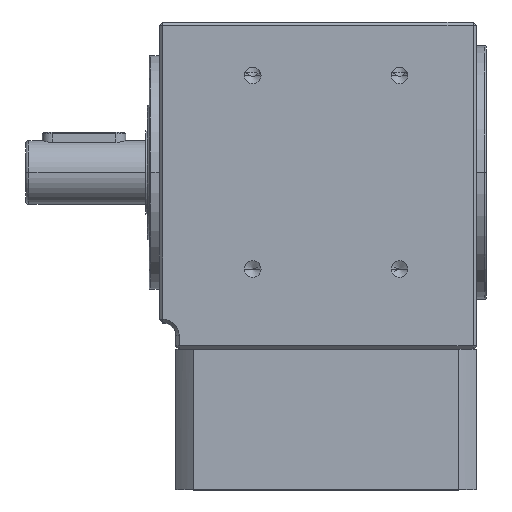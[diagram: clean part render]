
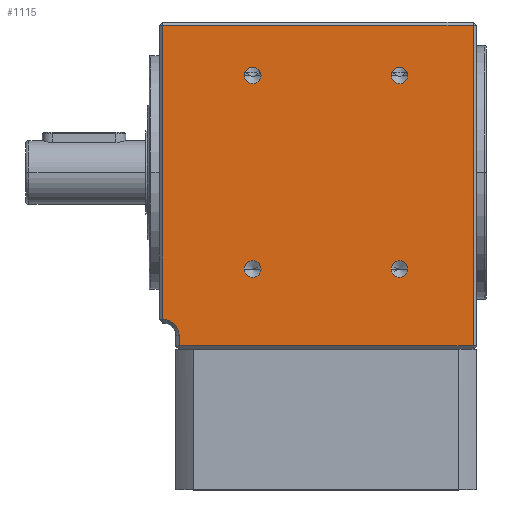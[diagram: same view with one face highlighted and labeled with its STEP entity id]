
A CAD part, top view. The second image highlights one B-rep face of the part: STEP entity #1115.
In plain terms, the highlighted planar face has unit normal (0, 0, 1).
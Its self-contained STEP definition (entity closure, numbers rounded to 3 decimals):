
#10 = DIRECTION ( 'NONE',  ( -1., 0., 0. ) ) ;
#30 = VERTEX_POINT ( 'NONE', #4280 ) ;
#35 = VERTEX_POINT ( 'NONE', #1004 ) ;
#61 = AXIS2_PLACEMENT_3D ( 'NONE', #3447, #5611, #2862 ) ;
#102 = VERTEX_POINT ( 'NONE', #552 ) ;
#339 = ORIENTED_EDGE ( 'NONE', *, *, #374, .F. ) ;
#350 = LINE ( 'NONE', #6373, #6005 ) ;
#374 = EDGE_CURVE ( 'NONE', #6306, #5108, #3771, .T. ) ;
#410 = DIRECTION ( 'NONE',  ( 0., 1., 0. ) ) ;
#455 = EDGE_CURVE ( 'NONE', #6812, #102, #871, .T. ) ;
#536 = VERTEX_POINT ( 'NONE', #6038 ) ;
#552 = CARTESIAN_POINT ( 'NONE',  ( -41.5, -52., 45. ) ) ;
#593 = DIRECTION ( 'NONE',  ( 0., 0., 1. ) ) ;
#614 = CARTESIAN_POINT ( 'NONE',  ( 24.5, -29., 45. ) ) ;
#729 = CARTESIAN_POINT ( 'NONE',  ( -17., -29., 45. ) ) ;
#749 = CIRCLE ( 'NONE', #2772, 2.5 ) ;
#773 = FACE_OUTER_BOUND ( 'NONE', #4164, .T. ) ;
#813 = EDGE_CURVE ( 'NONE', #5108, #6306, #6001, .T. ) ;
#824 = EDGE_CURVE ( 'NONE', #2982, #30, #3073, .T. ) ;
#851 = DIRECTION ( 'NONE',  ( 1., 0., 0. ) ) ;
#871 = LINE ( 'NONE', #1694, #1983 ) ;
#917 = CIRCLE ( 'NONE', #5685, 5. ) ;
#933 = LINE ( 'NONE', #2633, #6680 ) ;
#951 = CARTESIAN_POINT ( 'NONE',  ( 0., 0., 45. ) ) ;
#1004 = CARTESIAN_POINT ( 'NONE',  ( 46.5, -52., 45. ) ) ;
#1030 = AXIS2_PLACEMENT_3D ( 'NONE', #7054, #1590, #5442 ) ;
#1051 = ORIENTED_EDGE ( 'NONE', *, *, #2172, .F. ) ;
#1115 = ADVANCED_FACE ( 'NONE', ( #2736, #6692, #3756, #5327, #773 ), #1497, .F. ) ;
#1162 = DIRECTION ( 'NONE',  ( 1., 0., 0. ) ) ;
#1336 = ORIENTED_EDGE ( 'NONE', *, *, #2532, .T. ) ;
#1352 = CIRCLE ( 'NONE', #3876, 2.5 ) ;
#1435 = LINE ( 'NONE', #3232, #1851 ) ;
#1497 = PLANE ( 'NONE',  #1712 ) ;
#1505 = DIRECTION ( 'NONE',  ( 1., 0., 0. ) ) ;
#1579 = EDGE_CURVE ( 'NONE', #102, #35, #3936, .T. ) ;
#1590 = DIRECTION ( 'NONE',  ( 0., 0., 1. ) ) ;
#1605 = CARTESIAN_POINT ( 'NONE',  ( 27., 29., 45. ) ) ;
#1633 = AXIS2_PLACEMENT_3D ( 'NONE', #1918, #2465, #5225 ) ;
#1694 = CARTESIAN_POINT ( 'NONE',  ( -41.5, 0., 45. ) ) ;
#1712 = AXIS2_PLACEMENT_3D ( 'NONE', #951, #2619, #3146 ) ;
#1767 = ORIENTED_EDGE ( 'NONE', *, *, #1780, .F. ) ;
#1780 = EDGE_CURVE ( 'NONE', #6521, #6552, #2468, .T. ) ;
#1789 = ORIENTED_EDGE ( 'NONE', *, *, #2506, .T. ) ;
#1810 = DIRECTION ( 'NONE',  ( 0., 0., -1. ) ) ;
#1851 = VECTOR ( 'NONE', #2187, 1000. ) ;
#1918 = CARTESIAN_POINT ( 'NONE',  ( -19.5, -29., 45. ) ) ;
#1950 = CARTESIAN_POINT ( 'NONE',  ( 24.5, 29., 45. ) ) ;
#1983 = VECTOR ( 'NONE', #2218, 1000. ) ;
#2024 = ORIENTED_EDGE ( 'NONE', *, *, #455, .T. ) ;
#2172 = EDGE_CURVE ( 'NONE', #4294, #5539, #749, .T. ) ;
#2173 = EDGE_CURVE ( 'NONE', #5539, #4294, #1352, .T. ) ;
#2187 = DIRECTION ( 'NONE',  ( 0., -1., 0. ) ) ;
#2218 = DIRECTION ( 'NONE',  ( 0., -1., 0. ) ) ;
#2229 = DIRECTION ( 'NONE',  ( 1., 0., 0. ) ) ;
#2257 = CARTESIAN_POINT ( 'NONE',  ( 27., -29., 45. ) ) ;
#2289 = CIRCLE ( 'NONE', #1633, 2.5 ) ;
#2465 = DIRECTION ( 'NONE',  ( 0., 0., 1. ) ) ;
#2468 = CIRCLE ( 'NONE', #61, 2.5 ) ;
#2473 = VECTOR ( 'NONE', #6867, 1000. ) ;
#2506 = EDGE_CURVE ( 'NONE', #4158, #536, #1435, .T. ) ;
#2532 = EDGE_CURVE ( 'NONE', #536, #6812, #917, .T. ) ;
#2606 = DIRECTION ( 'NONE',  ( 1., 0., 0. ) ) ;
#2619 = DIRECTION ( 'NONE',  ( 0., 0., -1. ) ) ;
#2630 = CIRCLE ( 'NONE', #4351, 2.5 ) ;
#2633 = CARTESIAN_POINT ( 'NONE',  ( 46.5, 0., 45. ) ) ;
#2680 = EDGE_LOOP ( 'NONE', ( #339, #6874 ) ) ;
#2736 = FACE_BOUND ( 'NONE', #3680, .T. ) ;
#2772 = AXIS2_PLACEMENT_3D ( 'NONE', #5600, #593, #1162 ) ;
#2862 = DIRECTION ( 'NONE',  ( 1., 0., 0. ) ) ;
#2933 = CARTESIAN_POINT ( 'NONE',  ( 46.5, 44., 45. ) ) ;
#2982 = VERTEX_POINT ( 'NONE', #3811 ) ;
#3073 = CIRCLE ( 'NONE', #1030, 2.5 ) ;
#3086 = DIRECTION ( 'NONE',  ( -1., 0., 0. ) ) ;
#3133 = CARTESIAN_POINT ( 'NONE',  ( 24.5, 29., 45. ) ) ;
#3146 = DIRECTION ( 'NONE',  ( -1., 0., 0. ) ) ;
#3232 = CARTESIAN_POINT ( 'NONE',  ( -46.5, 0., 45. ) ) ;
#3347 = ORIENTED_EDGE ( 'NONE', *, *, #3839, .F. ) ;
#3447 = CARTESIAN_POINT ( 'NONE',  ( -19.5, -29., 45. ) ) ;
#3460 = EDGE_CURVE ( 'NONE', #35, #4456, #933, .T. ) ;
#3680 = EDGE_LOOP ( 'NONE', ( #5002, #6823 ) ) ;
#3705 = CARTESIAN_POINT ( 'NONE',  ( -41.5, -49., 45. ) ) ;
#3756 = FACE_BOUND ( 'NONE', #6943, .T. ) ;
#3771 = CIRCLE ( 'NONE', #3908, 2.5 ) ;
#3811 = CARTESIAN_POINT ( 'NONE',  ( -22., 29., 45. ) ) ;
#3839 = EDGE_CURVE ( 'NONE', #6552, #6521, #2289, .T. ) ;
#3876 = AXIS2_PLACEMENT_3D ( 'NONE', #614, #5577, #2229 ) ;
#3908 = AXIS2_PLACEMENT_3D ( 'NONE', #1950, #5770, #851 ) ;
#3928 = EDGE_CURVE ( 'NONE', #30, #2982, #2630, .T. ) ;
#3936 = LINE ( 'NONE', #4172, #2473 ) ;
#4018 = CARTESIAN_POINT ( 'NONE',  ( -46.5, -49., 45. ) ) ;
#4158 = VERTEX_POINT ( 'NONE', #5307 ) ;
#4164 = EDGE_LOOP ( 'NONE', ( #1336, #2024, #5401, #4663, #4879, #1789 ) ) ;
#4172 = CARTESIAN_POINT ( 'NONE',  ( 0., -52., 45. ) ) ;
#4280 = CARTESIAN_POINT ( 'NONE',  ( -17., 29., 45. ) ) ;
#4294 = VERTEX_POINT ( 'NONE', #4946 ) ;
#4351 = AXIS2_PLACEMENT_3D ( 'NONE', #4776, #5807, #1505 ) ;
#4418 = EDGE_LOOP ( 'NONE', ( #4864, #1051 ) ) ;
#4456 = VERTEX_POINT ( 'NONE', #2933 ) ;
#4663 = ORIENTED_EDGE ( 'NONE', *, *, #3460, .T. ) ;
#4683 = CARTESIAN_POINT ( 'NONE',  ( 22., 29., 45. ) ) ;
#4776 = CARTESIAN_POINT ( 'NONE',  ( -19.5, 29., 45. ) ) ;
#4794 = DIRECTION ( 'NONE',  ( 0., 0., 1. ) ) ;
#4864 = ORIENTED_EDGE ( 'NONE', *, *, #2173, .F. ) ;
#4879 = ORIENTED_EDGE ( 'NONE', *, *, #7123, .T. ) ;
#4946 = CARTESIAN_POINT ( 'NONE',  ( 22., -29., 45. ) ) ;
#5002 = ORIENTED_EDGE ( 'NONE', *, *, #3928, .F. ) ;
#5108 = VERTEX_POINT ( 'NONE', #4683 ) ;
#5225 = DIRECTION ( 'NONE',  ( 1., 0., 0. ) ) ;
#5307 = CARTESIAN_POINT ( 'NONE',  ( -46.5, 44., 45. ) ) ;
#5327 = FACE_BOUND ( 'NONE', #4418, .T. ) ;
#5401 = ORIENTED_EDGE ( 'NONE', *, *, #1579, .T. ) ;
#5442 = DIRECTION ( 'NONE',  ( 1., 0., 0. ) ) ;
#5539 = VERTEX_POINT ( 'NONE', #2257 ) ;
#5577 = DIRECTION ( 'NONE',  ( 0., 0., 1. ) ) ;
#5600 = CARTESIAN_POINT ( 'NONE',  ( 24.5, -29., 45. ) ) ;
#5611 = DIRECTION ( 'NONE',  ( 0., 0., 1. ) ) ;
#5685 = AXIS2_PLACEMENT_3D ( 'NONE', #4018, #1810, #10 ) ;
#5692 = CARTESIAN_POINT ( 'NONE',  ( -22., -29., 45. ) ) ;
#5770 = DIRECTION ( 'NONE',  ( 0., 0., 1. ) ) ;
#5807 = DIRECTION ( 'NONE',  ( 0., 0., 1. ) ) ;
#5811 = AXIS2_PLACEMENT_3D ( 'NONE', #3133, #4794, #2606 ) ;
#6001 = CIRCLE ( 'NONE', #5811, 2.5 ) ;
#6005 = VECTOR ( 'NONE', #3086, 1000. ) ;
#6038 = CARTESIAN_POINT ( 'NONE',  ( -46.5, -44., 45. ) ) ;
#6306 = VERTEX_POINT ( 'NONE', #1605 ) ;
#6373 = CARTESIAN_POINT ( 'NONE',  ( 0., 44., 45. ) ) ;
#6521 = VERTEX_POINT ( 'NONE', #729 ) ;
#6552 = VERTEX_POINT ( 'NONE', #5692 ) ;
#6680 = VECTOR ( 'NONE', #410, 1000. ) ;
#6692 = FACE_BOUND ( 'NONE', #2680, .T. ) ;
#6812 = VERTEX_POINT ( 'NONE', #3705 ) ;
#6823 = ORIENTED_EDGE ( 'NONE', *, *, #824, .F. ) ;
#6867 = DIRECTION ( 'NONE',  ( 1., 0., 0. ) ) ;
#6874 = ORIENTED_EDGE ( 'NONE', *, *, #813, .F. ) ;
#6943 = EDGE_LOOP ( 'NONE', ( #1767, #3347 ) ) ;
#7054 = CARTESIAN_POINT ( 'NONE',  ( -19.5, 29., 45. ) ) ;
#7123 = EDGE_CURVE ( 'NONE', #4456, #4158, #350, .T. ) ;
